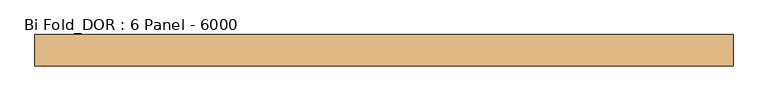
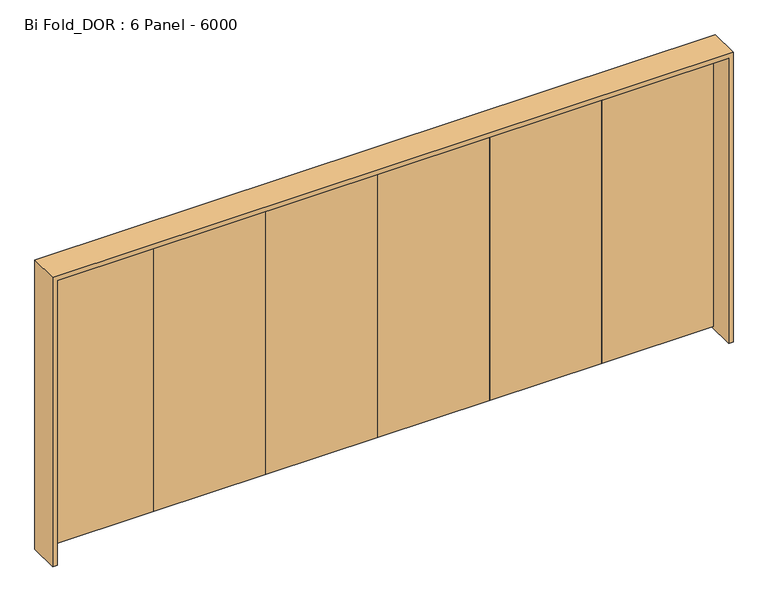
"""IFC4 building model written with IfcOpenShell, lengths in millimetres: door geometry, Bi Fold_DOR : 6 Panel - 6000."""

from ifc_helpers import new_model, si_unit, frame, origin, place, context, project, spatial, polyline, outline, extrude, source, transform, mapped, element, save


def bi_fold_dor_6_panel_6000_81c243c2(model_context):
    return source(origin(), model_context, "Body", "SweptSolid", [
        extrude(outline(polyline([(2960.0, 95.0), (1973.3333333, 95.0), (1973.3333333, 135.0), (2960.0, 135.0), (2960.0, 95.0)])), frame((0.0, 0.0, 20.0), z_axis=(0.0, 0.0, 1.0), x_axis=(1.0, 0.0, 0.0)), (0.0, 0.0, 1.0), 2640.0),
        extrude(outline(polyline([(1973.3333333, 95.0), (986.6666667, 95.0), (986.6666667, 135.0), (1973.3333333, 135.0), (1973.3333333, 95.0)])), frame((0.0, 0.0, 20.0), z_axis=(0.0, 0.0, 1.0), x_axis=(1.0, 0.0, 0.0)), (0.0, 0.0, 1.0), 2640.0),
        extrude(outline(polyline([(986.6666667, 95.0), (0.0, 95.0), (0.0, 135.0), (986.6666667, 135.0), (986.6666667, 95.0)])), frame((0.0, 0.0, 20.0), z_axis=(0.0, 0.0, 1.0), x_axis=(1.0, 0.0, 0.0)), (0.0, 0.0, 1.0), 2640.0),
        extrude(outline(polyline([(0.0, 95.0), (-986.6666667, 95.0), (-986.6666667, 135.0), (0.0, 135.0), (0.0, 95.0)])), frame((0.0, 0.0, 20.0), z_axis=(0.0, 0.0, 1.0), x_axis=(1.0, 0.0, 0.0)), (0.0, 0.0, 1.0), 2640.0),
        extrude(outline(polyline([(-986.6666667, 95.0), (-1973.3333333, 95.0), (-1973.3333333, 135.0), (-986.6666667, 135.0), (-986.6666667, 95.0)])), frame((0.0, 0.0, 20.0), z_axis=(0.0, 0.0, 1.0), x_axis=(1.0, 0.0, 0.0)), (0.0, 0.0, 1.0), 2640.0),
        extrude(outline(polyline([(-1973.3333333, 95.0), (-2960.0, 95.0), (-2960.0, 135.0), (-1973.3333333, 135.0), (-1973.3333333, 95.0)])), frame((0.0, 0.0, 20.0), z_axis=(0.0, 0.0, 1.0), x_axis=(1.0, 0.0, 0.0)), (0.0, 0.0, 1.0), 2640.0),
        extrude(outline(polyline([(0.0, 2960.0), (0.0, 3000.0), (2700.0, 3000.0), (2700.0, -3000.0), (0.0, -3000.0), (0.0, -2960.0), (2660.0, -2960.0), (2660.0, 2960.0), (0.0, 2960.0)])), frame((0.0, -135.0, 0.0), z_axis=(0.0, 1.0, 0.0), x_axis=(0.0, 0.0, 1.0)), (0.0, 0.0, 1.0), 270.0),
    ])


if __name__ == "__main__":
    model = new_model("IFC4")
    model_context = context("Model", 3, world=origin())
    ifc_project = project(units=[si_unit("LENGTHUNIT", "METRE", prefix="MILLI")], contexts=[model_context])
    site = spatial("IfcSite", under=ifc_project)
    building = spatial("IfcBuilding", under=site)
    placement = place(None, origin())
    bi_fold_dor_6_panel_6000_shape = bi_fold_dor_6_panel_6000_81c243c2(model_context)
    element("IfcDoor", 1, ObjectType="Bi Fold_DOR : 6 Panel - 6000", at=placement, inside=building, context=model_context, shape_type="MappedRepresentation", body=[
        mapped(bi_fold_dor_6_panel_6000_shape, transform((0.0, 0.0, 0.0), x_axis=(1.0, 0.0, 0.0), y_axis=(0.0, 1.0, 0.0), z_axis=(0.0, 0.0, 1.0))),
    ])
    save(model, "model.ifc")
